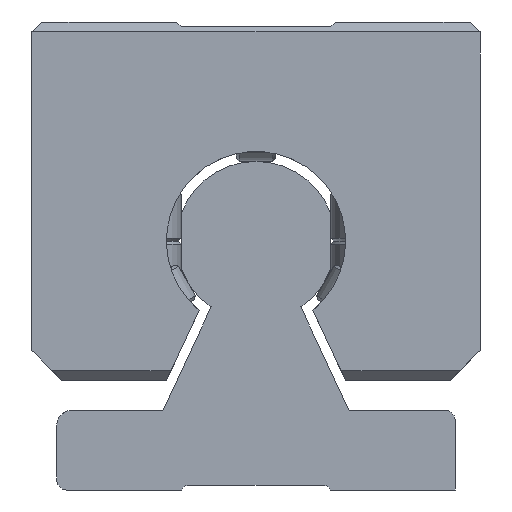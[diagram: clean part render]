
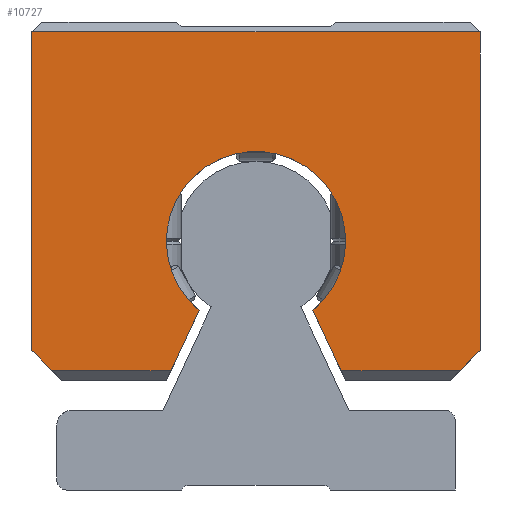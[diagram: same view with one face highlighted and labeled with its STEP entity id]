
A CAD part, left-side view. The second image highlights one B-rep face of the part: STEP entity #10727.
In plain terms, the highlighted planar face has unit normal (-1, 0, 0).
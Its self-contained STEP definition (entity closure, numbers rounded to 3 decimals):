
#9406=CARTESIAN_POINT('',(269.827,-5.714,18.047));
#9407=VERTEX_POINT('',#9406);
#9414=CARTESIAN_POINT('',(269.827,5.714,18.047));
#9415=VERTEX_POINT('',#9414);
#9416=CARTESIAN_POINT('',(269.827,0.,25.));
#9417=DIRECTION('',(-1.0,0.0,0.0));
#9418=DIRECTION('',(0.0,-1.0,0.0));
#9419=AXIS2_PLACEMENT_3D('',#9416,#9417,#9418);
#9420=CIRCLE('',#9419,9.0);
#9421=EDGE_CURVE('',#9407,#9415,#9420,.T.);
#9947=CARTESIAN_POINT('',(269.827,-22.5,46.));
#9948=VERTEX_POINT('',#9947);
#9957=CARTESIAN_POINT('',(269.827,-22.5,14.));
#9958=VERTEX_POINT('',#9957);
#9959=CARTESIAN_POINT('',(269.827,-22.5,46.));
#9960=DIRECTION('',(0.0,0.0,-1.0));
#9961=VECTOR('',#9960,32.0);
#9962=LINE('',#9959,#9961);
#9963=EDGE_CURVE('',#9948,#9958,#9962,.T.);
#10357=CARTESIAN_POINT('',(269.827,22.5,46.));
#10358=VERTEX_POINT('',#10357);
#10365=CARTESIAN_POINT('',(269.827,22.5,46.));
#10366=DIRECTION('',(0.0,-1.0,0.0));
#10367=VECTOR('',#10366,45.0);
#10368=LINE('',#10365,#10367);
#10369=EDGE_CURVE('',#10358,#9948,#10368,.T.);
#10379=CARTESIAN_POINT('',(269.827,20.5,12.));
#10380=VERTEX_POINT('',#10379);
#10397=CARTESIAN_POINT('',(269.827,8.534,12.));
#10398=VERTEX_POINT('',#10397);
#10405=CARTESIAN_POINT('',(269.827,8.534,12.));
#10406=DIRECTION('',(0.0,1.0,0.0));
#10407=VECTOR('',#10406,11.966);
#10408=LINE('',#10405,#10407);
#10409=EDGE_CURVE('',#10398,#10380,#10408,.T.);
#10471=CARTESIAN_POINT('',(269.827,22.5,14.));
#10472=VERTEX_POINT('',#10471);
#10473=CARTESIAN_POINT('',(269.827,20.5,12.));
#10474=DIRECTION('',(0.0,0.707,0.707));
#10475=VECTOR('',#10474,2.828);
#10476=LINE('',#10473,#10475);
#10477=EDGE_CURVE('',#10380,#10472,#10476,.T.);
#10653=CARTESIAN_POINT('',(269.827,-20.5,12.));
#10654=VERTEX_POINT('',#10653);
#10655=CARTESIAN_POINT('',(269.827,-22.5,14.));
#10656=DIRECTION('',(0.0,0.707,-0.707));
#10657=VECTOR('',#10656,2.828);
#10658=LINE('',#10655,#10657);
#10659=EDGE_CURVE('',#9958,#10654,#10658,.T.);
#10677=CARTESIAN_POINT('',(269.827,-8.534,12.));
#10678=VERTEX_POINT('',#10677);
#10679=CARTESIAN_POINT('',(269.827,-20.5,12.));
#10680=DIRECTION('',(0.0,1.0,0.0));
#10681=VECTOR('',#10680,11.966);
#10682=LINE('',#10679,#10681);
#10683=EDGE_CURVE('',#10654,#10678,#10682,.T.);
#10695=CARTESIAN_POINT('',(269.827,-15.25,46.75));
#10696=DIRECTION('',(1.0,0.0,0.0));
#10697=DIRECTION('',(0.0,0.0,-1.0));
#10698=AXIS2_PLACEMENT_3D('',#10695,#10696,#10697);
#10699=PLANE('',#10698);
#10700=ORIENTED_EDGE('',*,*,#10409,.F.);
#10701=CARTESIAN_POINT('',(269.827,5.714,18.047));
#10702=DIRECTION('',(0.0,0.423,-0.906));
#10703=VECTOR('',#10702,6.672);
#10704=LINE('',#10701,#10703);
#10705=EDGE_CURVE('',#9415,#10398,#10704,.T.);
#10706=ORIENTED_EDGE('',*,*,#10705,.F.);
#10707=ORIENTED_EDGE('',*,*,#9421,.F.);
#10708=CARTESIAN_POINT('',(269.827,-8.534,12.));
#10709=DIRECTION('',(0.0,0.423,0.906));
#10710=VECTOR('',#10709,6.672);
#10711=LINE('',#10708,#10710);
#10712=EDGE_CURVE('',#10678,#9407,#10711,.T.);
#10713=ORIENTED_EDGE('',*,*,#10712,.F.);
#10714=ORIENTED_EDGE('',*,*,#10683,.F.);
#10715=ORIENTED_EDGE('',*,*,#10659,.F.);
#10716=ORIENTED_EDGE('',*,*,#9963,.F.);
#10717=ORIENTED_EDGE('',*,*,#10369,.F.);
#10718=CARTESIAN_POINT('',(269.827,22.5,14.));
#10719=DIRECTION('',(0.0,0.0,1.0));
#10720=VECTOR('',#10719,32.0);
#10721=LINE('',#10718,#10720);
#10722=EDGE_CURVE('',#10472,#10358,#10721,.T.);
#10723=ORIENTED_EDGE('',*,*,#10722,.F.);
#10724=ORIENTED_EDGE('',*,*,#10477,.F.);
#10725=EDGE_LOOP('',(#10700,#10706,#10707,#10713,#10714,#10715,#10716,#10717,#10723,#10724));
#10726=FACE_OUTER_BOUND('',#10725,.T.);
#10727=ADVANCED_FACE('',(#10726),#10699,.F.);
